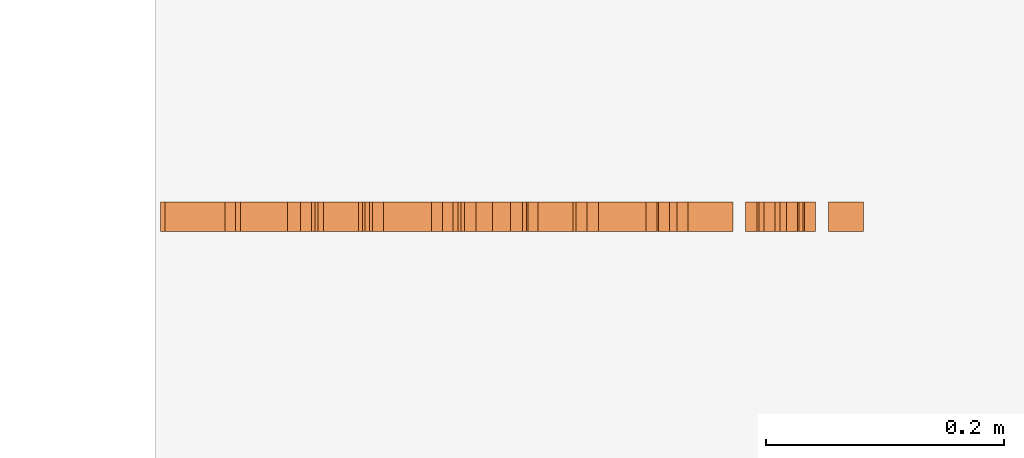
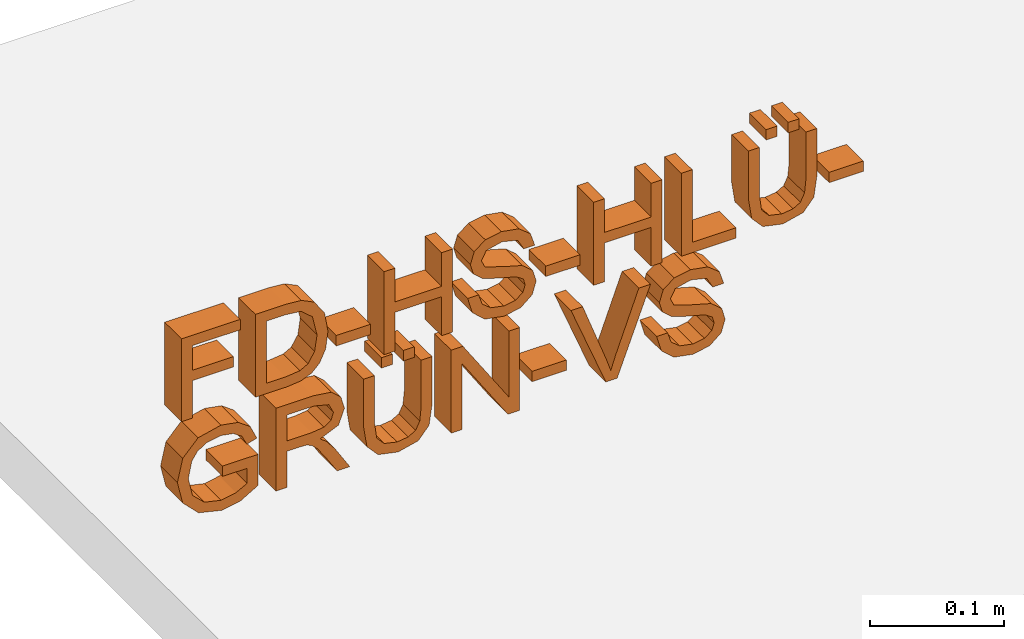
# Not in any storey, part 2 of 2: 1 proxy.
"""IFC2X3 model written with IfcOpenShell, lengths in metres."""

from ifc_helpers import new_model, entity, si_unit, converted_unit, derived_unit, direction, frame, frame_2d, origin, place, context, subcontext, project, spatial, polyline, rectangle, outline, extrude, type_object, element, save


model = new_model("IFC2X3")

# Units and contexts
model_context = context("Model", 3, precision=1e-05, world=origin(), true_north=direction((6.123031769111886e-17, 1.0)))
body_context = subcontext(model_context, "Body", "Model", "MODEL_VIEW")
ifc_project = project(units=[si_unit("LENGTHUNIT", "METRE"), si_unit("AREAUNIT", "SQUARE_METRE"), si_unit("VOLUMEUNIT", "CUBIC_METRE"), converted_unit("PLANEANGLEUNIT", "DEGREE", entity("IfcRatioMeasure", 0.017453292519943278), si_unit("PLANEANGLEUNIT", "RADIAN"), dimensions=[0, 0, 0, 0, 0, 0, 0]), si_unit("MASSUNIT", "GRAM", prefix="KILO"), derived_unit("MASSDENSITYUNIT", [(si_unit("MASSUNIT", "GRAM", prefix="KILO"), 1), (si_unit("LENGTHUNIT", "METRE"), -3)]), derived_unit("IONCONCENTRATIONUNIT", [(si_unit("MASSUNIT", "GRAM", prefix="KILO"), 1), (si_unit("LENGTHUNIT", "METRE"), -3)]), derived_unit("MOMENTOFINERTIAUNIT", [(si_unit("LENGTHUNIT", "METRE"), 4)]), si_unit("TIMEUNIT", "SECOND"), si_unit("FREQUENCYUNIT", "HERTZ"), si_unit("THERMODYNAMICTEMPERATUREUNIT", "DEGREE_CELSIUS"), derived_unit("THERMALTRANSMITTANCEUNIT", [(si_unit("MASSUNIT", "GRAM", prefix="KILO"), 1), (si_unit("THERMODYNAMICTEMPERATUREUNIT", "KELVIN"), -1), (si_unit("TIMEUNIT", "SECOND"), -3)]), derived_unit("THERMALCONDUCTANCEUNIT", [(si_unit("MASSUNIT", "GRAM", prefix="KILO"), 1), (si_unit("THERMODYNAMICTEMPERATUREUNIT", "KELVIN"), -1), (si_unit("TIMEUNIT", "SECOND"), -3), (si_unit("LENGTHUNIT", "METRE"), 1)]), derived_unit("VOLUMETRICFLOWRATEUNIT", [(si_unit("LENGTHUNIT", "METRE"), 3), (si_unit("TIMEUNIT", "SECOND"), -1)]), derived_unit("MASSFLOWRATEUNIT", [(si_unit("MASSUNIT", "GRAM", prefix="KILO"), 1), (si_unit("TIMEUNIT", "SECOND"), -1)]), derived_unit("ROTATIONALFREQUENCYUNIT", [(si_unit("TIMEUNIT", "SECOND"), -1)]), si_unit("ELECTRICCURRENTUNIT", "AMPERE"), si_unit("ELECTRICVOLTAGEUNIT", "VOLT"), si_unit("POWERUNIT", "WATT"), si_unit("FORCEUNIT", "NEWTON", prefix="KILO"), si_unit("ILLUMINANCEUNIT", "LUX"), si_unit("LUMINOUSFLUXUNIT", "LUMEN"), si_unit("LUMINOUSINTENSITYUNIT", "CANDELA"), derived_unit("USERDEFINED", [(si_unit("MASSUNIT", "GRAM", prefix="KILO"), -1), (si_unit("LENGTHUNIT", "METRE"), -2), (si_unit("TIMEUNIT", "SECOND"), 3), (si_unit("LUMINOUSFLUXUNIT", "LUMEN"), 1)]), derived_unit("USERDEFINED", [(si_unit("MASSUNIT", "GRAM", prefix="KILO"), 1), (si_unit("TIMEUNIT", "SECOND"), -3), (si_unit("LENGTHUNIT", "METRE"), 3), (si_unit("ELECTRICCURRENTUNIT", "AMPERE"), -2)]), derived_unit("SOUNDPOWERUNIT", [(si_unit("MASSUNIT", "GRAM", prefix="KILO"), 1), (si_unit("TIMEUNIT", "SECOND"), -3), (si_unit("LENGTHUNIT", "METRE"), 2)]), derived_unit("SOUNDPRESSUREUNIT", [(si_unit("MASSUNIT", "GRAM", prefix="KILO"), 1), (si_unit("LENGTHUNIT", "METRE"), -1), (si_unit("TIMEUNIT", "SECOND"), -2)]), derived_unit("LINEARVELOCITYUNIT", [(si_unit("LENGTHUNIT", "METRE"), 1), (si_unit("TIMEUNIT", "SECOND"), -1)]), si_unit("PRESSUREUNIT", "PASCAL"), derived_unit("USERDEFINED", [(si_unit("MASSUNIT", "GRAM", prefix="KILO"), 1), (si_unit("LENGTHUNIT", "METRE"), -2), (si_unit("TIMEUNIT", "SECOND"), -2)]), derived_unit("LINEARFORCEUNIT", [(si_unit("MASSUNIT", "GRAM", prefix="KILO"), 1), (si_unit("TIMEUNIT", "SECOND"), -2)]), derived_unit("PLANARFORCEUNIT", [(si_unit("MASSUNIT", "GRAM", prefix="KILO"), 1), (si_unit("LENGTHUNIT", "METRE"), -1), (si_unit("TIMEUNIT", "SECOND"), -2)]), derived_unit("SPECIFICHEATCAPACITYUNIT", [(si_unit("THERMODYNAMICTEMPERATUREUNIT", "KELVIN"), -1), (si_unit("LENGTHUNIT", "METRE"), 2), (si_unit("TIMEUNIT", "SECOND"), -2)]), derived_unit("HEATINGVALUEUNIT", [(si_unit("LENGTHUNIT", "METRE"), 2), (si_unit("TIMEUNIT", "SECOND"), -2)]), derived_unit("VAPORPERMEABILITYUNIT", [(si_unit("LENGTHUNIT", "METRE"), -1), (si_unit("TIMEUNIT", "SECOND"), 1)]), derived_unit("DYNAMICVISCOSITYUNIT", [(si_unit("MASSUNIT", "GRAM", prefix="KILO"), 1), (si_unit("TIMEUNIT", "SECOND"), -1), (si_unit("LENGTHUNIT", "METRE"), -1)]), derived_unit("THERMALEXPANSIONCOEFFICIENTUNIT", [(si_unit("THERMODYNAMICTEMPERATUREUNIT", "KELVIN"), -1)]), derived_unit("MODULUSOFELASTICITYUNIT", [(si_unit("MASSUNIT", "GRAM", prefix="KILO"), 1), (si_unit("LENGTHUNIT", "METRE"), -1), (si_unit("TIMEUNIT", "SECOND"), -2)]), derived_unit("ISOTHERMALMOISTURECAPACITYUNIT", [(si_unit("LENGTHUNIT", "METRE"), 3), (si_unit("MASSUNIT", "GRAM", prefix="KILO"), -1)]), derived_unit("MOISTUREDIFFUSIVITYUNIT", [(si_unit("TIMEUNIT", "SECOND"), -1), (si_unit("LENGTHUNIT", "METRE"), 2)])], contexts=[model_context])

# Site
site_placement = place(None, origin())
site = spatial("IfcSite", under=ifc_project, at=site_placement, Name="Default", CompositionType="ELEMENT")

# Proxy
building_element_proxy_type = type_object("IfcBuildingElementProxyType", Name="Modelltext:075mm Arial", PredefinedType="NOTDEFINED")
proxy_placement = place(site_placement, origin())
element("IfcBuildingElementProxy", 1, at=proxy_placement, inside=site, type_object=building_element_proxy_type, Name="Modelltext:075mm Arial", ObjectType="Modelltext:075mm Arial", context=body_context, shape_type="SweptSolid", body=[
    extrude(outline(polyline([(-0.04379267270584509, -0.022838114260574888), (0.03154955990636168, -0.022838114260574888), (0.03154955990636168, 0.027782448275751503), (0.022131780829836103, 0.027782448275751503), (0.022131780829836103, -0.01342033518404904), (-0.00023544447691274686, -0.01342033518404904), (-0.00023544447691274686, 0.021896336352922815), (-0.009653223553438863, 0.021896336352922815), (-0.009653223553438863, -0.01342033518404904), (-0.04379267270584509, -0.01342033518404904), (-0.04379267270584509, -0.022838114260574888)])), frame((-2.063215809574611, 42.834392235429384, -2.4892114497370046), z_axis=(0.0, 1.0, 0.0), x_axis=(0.0, 0.0, 1.0)), (0.0, 0.0, 1.0), 0.025000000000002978),
    extrude(outline(polyline([(-0.03575046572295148, -0.039028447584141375), (0.039591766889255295, -0.039028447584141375), (0.039591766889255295, -0.013037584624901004), (0.03850651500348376, 0.0004085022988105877), (0.03311704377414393, 0.011481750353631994), (0.02024117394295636, 0.020402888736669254), (0.0023253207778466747, 0.023364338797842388), (-0.012877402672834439, 0.021359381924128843), (-0.023849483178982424, 0.01620903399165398), (-0.030682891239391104, 0.009329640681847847), (-0.03446287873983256, 0.0003257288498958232), (-0.03575046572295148, -0.011786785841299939), (-0.03575046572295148, -0.039028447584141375)]), holes=[polyline([(-0.02633268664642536, -0.02961066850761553), (-0.02633268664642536, -0.01294561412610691), (-0.024971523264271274, -0.0008239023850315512), (-0.021127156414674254, 0.006165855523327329), (-0.011773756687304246, 0.011895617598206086), (0.002472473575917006, 0.013946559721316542), (0.020314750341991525, 0.009927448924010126), (0.02866567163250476, 0.00015098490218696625), (0.03017398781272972, -0.013203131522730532), (0.03017398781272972, -0.02961066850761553), (-0.02633268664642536, -0.02961066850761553)])]), frame((-1.9834554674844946, 42.834392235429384, -2.497253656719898), z_axis=(0.0, 1.0, 0.0), x_axis=(0.0, 0.0, 1.0)), (0.0, 0.0, 1.0), 0.025000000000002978),
    extrude(rectangle(XDim=0.025000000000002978, YDim=0.02943055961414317, at=frame_2d((-4.330737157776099e-15, 0.0), x_axis=(1.0, 0.0))), frame((-1.938312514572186, 42.84689223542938, -2.510636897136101), z_axis=(0.0, 0.0, 1.0), x_axis=(0.0, 1.0, 0.0)), (0.0, 0.0, 1.0), 0.009417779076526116),
    extrude(outline(polyline([(-0.03845593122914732, -0.02943055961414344), (0.03688630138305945, -0.02943055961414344), (0.03688630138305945, -0.020012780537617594), (0.006278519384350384, -0.020012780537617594), (0.006278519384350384, 0.020012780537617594), (0.03688630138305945, 0.020012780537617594), (0.03688630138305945, 0.02943055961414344), (-0.03845593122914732, 0.02943055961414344), (-0.03845593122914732, 0.020012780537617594), (-0.003139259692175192, 0.020012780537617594), (-0.003139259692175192, -0.020012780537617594), (-0.03845593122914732, -0.020012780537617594), (-0.03845593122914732, -0.02943055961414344)])), frame((-1.8823944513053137, 42.834392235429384, -2.4945481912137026), z_axis=(0.0, 1.0, 0.0), x_axis=(0.0, 0.0, 1.0)), (0.0, 0.0, 1.0), 0.025000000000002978),
    extrude(outline(polyline([(-0.030292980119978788, 0.011054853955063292), (-0.020875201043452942, 0.011054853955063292), (-0.01784017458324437, 0.020481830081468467), (-0.010427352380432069, 0.02644151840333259), (0.0008666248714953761, 0.028713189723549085), (0.010707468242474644, 0.026993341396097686), (0.017062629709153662, 0.022266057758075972), (0.01915036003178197, 0.015947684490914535), (0.017586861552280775, 0.010070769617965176), (0.011185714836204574, 0.005794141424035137), (-0.0025270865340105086, 0.0021980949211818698), (-0.017288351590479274, -0.00244641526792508), (-0.025298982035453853, -0.009454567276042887), (-0.027938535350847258, -0.018817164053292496), (-0.02467358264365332, -0.02947654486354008), (-0.015136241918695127, -0.03699973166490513), (-0.0011751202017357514, -0.03956570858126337), (0.013724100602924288, -0.03688017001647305), (0.02365691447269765, -0.02898910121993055), (0.02739091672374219, -0.01719848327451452), (0.017973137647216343, -0.01719848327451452), (0.012638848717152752, -0.026873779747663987), (-0.00080723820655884, -0.030147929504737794), (-0.014290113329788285, -0.02691056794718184), (-0.018520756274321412, -0.019093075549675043), (-0.015522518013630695, -0.012563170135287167), (-0.0001450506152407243, -0.007302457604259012), (0.016520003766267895, -0.0025751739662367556), (0.025634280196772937, 0.005058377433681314), (0.028568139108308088, 0.0157085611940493), (0.025192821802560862, 0.02697494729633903), (0.01548073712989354, 0.03519710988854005), (0.0012345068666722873, 0.0381309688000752), (-0.015586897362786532, 0.03496718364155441), (-0.026227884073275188, 0.025439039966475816), (-0.030292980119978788, 0.011054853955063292)])), frame((-1.8097214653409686, 42.834392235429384, -2.4960503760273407), z_axis=(0.0, 1.0, 0.0), x_axis=(1.0, 0.0, 0.0)), (0.0, 0.0, 1.0), 0.025000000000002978),
    extrude(rectangle(XDim=0.025000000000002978, YDim=0.02943055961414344, at=frame_2d((-4.330737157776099e-15, -1.3530843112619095e-16), x_axis=(1.0, 0.0))), frame((-1.7581974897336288, 42.84689223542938, -2.510636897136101), z_axis=(0.0, 0.0, 1.0), x_axis=(0.0, 1.0, 0.0)), (0.0, 0.0, 1.0), 0.009417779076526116),
    extrude(outline(polyline([(-0.03845593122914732, -0.02943055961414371), (0.03688630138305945, -0.02943055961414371), (0.03688630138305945, -0.020012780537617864), (0.006278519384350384, -0.020012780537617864), (0.006278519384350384, 0.020012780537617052), (0.03688630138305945, 0.020012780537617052), (0.03688630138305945, 0.029430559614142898), (-0.03845593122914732, 0.029430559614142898), (-0.03845593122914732, 0.020012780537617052), (-0.003139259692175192, 0.020012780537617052), (-0.003139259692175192, -0.020012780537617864), (-0.03845593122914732, -0.020012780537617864), (-0.03845593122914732, -0.02943055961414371)])), frame((-1.702279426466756, 42.834392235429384, -2.4945481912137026), z_axis=(0.0, 1.0, 0.0), x_axis=(0.0, 0.0, 1.0)), (0.0, 0.0, 1.0), 0.025000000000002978),
    extrude(outline(polyline([(-0.028253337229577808, -0.018835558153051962), (0.04708889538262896, -0.018835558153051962), (0.04708889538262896, -0.009417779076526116), (-0.01883555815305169, -0.009417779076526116), (-0.01883555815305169, 0.028253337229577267), (-0.028253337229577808, 0.028253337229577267), (-0.028253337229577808, -0.018835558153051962)])), frame((-1.6375321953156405, 42.83439223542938, -2.504750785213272), z_axis=(0.0, 1.0, 0.0), x_axis=(0.0, 0.0, 1.0)), (0.0, 0.0, 1.0), 0.025000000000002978),
    extrude(rectangle(XDim=0.025000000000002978, YDim=0.009417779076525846, at=frame_2d((-4.330737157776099e-15, 1.3530843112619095e-16), x_axis=(1.0, 0.0))), frame((-1.578671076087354, 42.84689223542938, -2.45295300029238), z_axis=(0.0, 0.0, 1.0), x_axis=(0.0, 1.0, 0.0)), (0.0, 0.0, 1.0), 0.009417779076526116),
    extrude(rectangle(XDim=0.025000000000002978, YDim=0.02943055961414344, at=frame_2d((-4.330737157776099e-15, 1.3530843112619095e-16), x_axis=(1.0, 0.0))), frame((-1.5145124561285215, 42.84689223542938, -2.510636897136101), z_axis=(0.0, 0.0, 1.0), x_axis=(0.0, 1.0, 0.0)), (0.0, 0.0, 1.0), 0.009417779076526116),
    extrude(outline(polyline([(-0.00963121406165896, 0.0014347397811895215), (-0.00021343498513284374, 0.0014347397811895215), (-0.00021343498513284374, 0.03204252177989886), (-0.02837480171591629, 0.03204252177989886), (-0.03725915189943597, 0.01693176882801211), (-0.04023899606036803, 0.0009564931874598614), (-0.035502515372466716, -0.019157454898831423), (-0.021789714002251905, -0.0328058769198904), (-0.0017585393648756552, -0.03741359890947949), (0.018723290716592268, -0.032824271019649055), (0.032840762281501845, -0.019626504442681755), (0.03745768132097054, 0.0002023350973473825), (0.03478133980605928, 0.014936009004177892), (0.027331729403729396, 0.025264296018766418), (0.014869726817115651, 0.030957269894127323), (0.01242331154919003, 0.02227525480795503), (0.02113291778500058, 0.017980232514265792), (0.026154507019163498, 0.010640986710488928), (0.028039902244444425, 5.518229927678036e-05), (0.026007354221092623, -0.012002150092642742), (0.020673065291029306, -0.020205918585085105), (0.013416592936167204, -0.025052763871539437), (-0.0013722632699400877, -0.027995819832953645), (-0.017788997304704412, -0.02445495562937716), (-0.027611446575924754, -0.014154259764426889), (-0.030821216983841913, 0.0002023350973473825), (-0.028402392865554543, 0.01308740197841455), (-0.02324284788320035, 0.022624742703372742), (-0.00963121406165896, 0.022624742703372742), (-0.00963121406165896, 0.0014347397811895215)])), frame((-2.0521719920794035, 42.834392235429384, -2.5854234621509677), z_axis=(0.0, 1.0, 0.0), x_axis=(0.0, 0.0, 1.0)), (0.0, 0.0, 1.0), 0.025000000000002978),
    extrude(outline(polyline([(-0.03376914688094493, -0.03536314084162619), (0.041573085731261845, -0.03536314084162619), (0.041573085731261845, -0.0028975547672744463), (0.039540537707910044, 0.01217640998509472), (0.032348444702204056, 0.020416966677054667), (0.020953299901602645, 0.02349797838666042), (0.0073784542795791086, 0.018393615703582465), (0.00037030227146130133, 0.002620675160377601), (-0.003658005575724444, 0.007973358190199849), (-0.013351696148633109, 0.015606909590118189), (-0.03376914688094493, 0.028170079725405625), (-0.03376914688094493, 0.017225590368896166), (-0.018152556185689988, 0.007421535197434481), (-0.007815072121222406, 0.0003398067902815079), (-0.00293143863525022, -0.004635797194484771), (-0.0011380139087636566, -0.009114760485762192), (-0.0008069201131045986, -0.01457780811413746), (-0.0008069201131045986, -0.02594536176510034), (-0.03376914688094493, -0.02594536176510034), (-0.03376914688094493, -0.03536314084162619)]), holes=[polyline([(0.008610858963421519, -0.02594536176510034), (0.008610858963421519, -0.004865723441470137), (0.009944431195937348, 0.005885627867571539), (0.01421186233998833, 0.011992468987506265), (0.020603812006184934, 0.014080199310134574), (0.02889955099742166, 0.01009787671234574), (0.03215530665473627, -0.002492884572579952), (0.03215530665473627, -0.02594536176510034), (0.008610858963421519, -0.02594536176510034)])]), frame((-1.9694624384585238, 42.834392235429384, -2.590716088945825), z_axis=(0.0, 1.0, 0.0), x_axis=(0.0, 0.0, 1.0)), (0.0, 0.0, 1.0), 0.025000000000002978),
    extrude(rectangle(XDim=0.025000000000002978, YDim=0.009417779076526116, at=frame_2d((-4.330737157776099e-15, 0.0), x_axis=(1.0, 0.0))), frame((-1.9094705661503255, 42.84689223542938, -2.5444341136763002), z_axis=(0.0, 0.0, 1.0), x_axis=(0.0, 1.0, 0.0)), (0.0, 0.0, 1.0), 0.009417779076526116),
    extrude(outline(polyline([(-0.037672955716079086, -0.02943055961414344), (0.03766927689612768, -0.02943055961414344), (0.03766927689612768, -0.019350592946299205), (-0.02201957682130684, 0.020012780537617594), (0.03766927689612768, 0.020012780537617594), (0.03766927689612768, 0.02943055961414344), (-0.037672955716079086, 0.02943055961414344), (-0.037672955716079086, 0.019350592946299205), (0.02203429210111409, -0.020012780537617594), (-0.037672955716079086, -0.020012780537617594), (-0.037672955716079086, -0.02943055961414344)])), frame((-1.8247105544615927, 42.834392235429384, -2.5868122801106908), z_axis=(0.0, 1.0, 0.0), x_axis=(0.0, 0.0, 1.0)), (0.0, 0.0, 1.0), 0.025000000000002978),
    extrude(outline(polyline([(0.0193050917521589, -0.04688825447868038), (0.028722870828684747, -0.04688825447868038), (0.028722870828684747, -0.0034229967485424), (0.026166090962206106, 0.014594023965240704), (0.016950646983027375, 0.025446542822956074), (-0.0005237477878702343, 0.02963120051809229), (-0.01773142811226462, 0.025989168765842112), (-0.027277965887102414, 0.015440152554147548), (-0.030138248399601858, -0.0034229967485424), (-0.030138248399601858, -0.04688825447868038), (-0.020720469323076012, -0.04688825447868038), (-0.020720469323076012, -0.0037540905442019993), (-0.01886266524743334, 0.010602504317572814), (-0.012479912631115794, 0.01771182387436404), (-0.0014066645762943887, 0.02021342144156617), (0.008172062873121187, 0.018976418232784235), (0.014541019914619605, 0.01526540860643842), (0.018114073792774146, 0.008036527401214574), (0.0193050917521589, -0.0037540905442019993), (0.0193050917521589, -0.04688825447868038)])), frame((-1.5685456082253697, 42.834392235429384, -2.5045501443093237), z_axis=(0.0, 1.0, 0.0), x_axis=(1.0, 0.0, 0.0)), (0.0, 0.0, 1.0), 0.025000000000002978),
    extrude(outline(polyline([(0.01930509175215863, -0.04688825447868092), (0.028722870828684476, -0.04688825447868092), (0.028722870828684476, -0.0034229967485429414), (0.026166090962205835, 0.014594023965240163), (0.016950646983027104, 0.025446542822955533), (-0.000523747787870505, 0.029631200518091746), (-0.017731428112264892, 0.02598916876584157), (-0.027277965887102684, 0.015440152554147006), (-0.0301382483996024, -0.0034229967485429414), (-0.0301382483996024, -0.04688825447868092), (-0.020720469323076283, -0.04688825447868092), (-0.020720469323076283, -0.0037540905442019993), (-0.01886266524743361, 0.010602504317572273), (-0.012479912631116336, 0.0177118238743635), (-0.0014066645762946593, 0.02021342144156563), (0.008172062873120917, 0.018976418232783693), (0.014541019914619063, 0.015265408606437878), (0.018114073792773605, 0.008036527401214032), (0.01930509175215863, -0.0037540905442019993), (0.01930509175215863, -0.04688825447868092)])), frame((-1.8993450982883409, 42.834392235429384, -2.596031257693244), z_axis=(0.0, 1.0, 0.0), x_axis=(1.0, 0.0, 0.0)), (0.0, 0.0, 1.0), 0.025000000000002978),
    extrude(rectangle(XDim=0.025000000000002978, YDim=0.009417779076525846, at=frame_2d((-4.330737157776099e-15, -1.3530843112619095e-16), x_axis=(1.0, 0.0))), frame((-1.5598355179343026, 42.84689223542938, -2.45295300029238), z_axis=(0.0, 0.0, 1.0), x_axis=(0.0, 1.0, 0.0)), (0.0, 0.0, 1.0), 0.009417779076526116),
    extrude(rectangle(XDim=0.025000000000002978, YDim=0.009417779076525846, at=frame_2d((-4.330737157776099e-15, -1.3530843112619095e-16), x_axis=(1.0, 0.0))), frame((-1.890635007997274, 42.84689223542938, -2.5444341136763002), z_axis=(0.0, 0.0, 1.0), x_axis=(0.0, 1.0, 0.0)), (0.0, 0.0, 1.0), 0.009417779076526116),
    extrude(rectangle(XDim=0.025000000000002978, YDim=0.02943055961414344, at=frame_2d((-4.330737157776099e-15, 1.3530843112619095e-16), x_axis=(1.0, 0.0))), frame((-1.769969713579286, 42.84689223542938, -2.6021180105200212), z_axis=(0.0, 0.0, 1.0), x_axis=(0.0, 1.0, 0.0)), (0.0, 0.0, 1.0), 0.009417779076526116),
    extrude(outline(polyline([(-0.03475834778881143, -0.018530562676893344), (0.046330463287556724, -0.01853056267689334), (0.04260342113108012, -0.009164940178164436), (-0.015250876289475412, -0.01058940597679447), (-0.028119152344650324, -0.011335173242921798), (-0.018236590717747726, -0.0030866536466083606), (0.024757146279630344, 0.03568066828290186), (0.021030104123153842, 0.04504629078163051), (-0.03835616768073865, -0.00948966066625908), (-0.03475834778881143, -0.018530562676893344)])), frame((-1.7168598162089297, 42.834392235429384, -2.5853385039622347), z_axis=(0.0, 1.0, 0.0), x_axis=(-0.36974746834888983, 0.0, 0.9291322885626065)), (0.0, 0.0, 1.0), 0.025000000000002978),
    extrude(outline(polyline([(-0.03029298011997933, 0.011054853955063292), (-0.020875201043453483, 0.011054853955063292), (-0.01784017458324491, 0.020481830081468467), (-0.01042735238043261, 0.02644151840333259), (0.0008666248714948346, 0.028713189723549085), (0.010707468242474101, 0.026993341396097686), (0.01706262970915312, 0.022266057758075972), (0.01915036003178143, 0.015947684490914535), (0.017586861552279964, 0.010070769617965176), (0.011185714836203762, 0.005794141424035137), (-0.00252708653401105, 0.0021980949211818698), (-0.017288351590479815, -0.00244641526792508), (-0.025298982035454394, -0.009454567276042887), (-0.02793853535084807, -0.018817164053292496), (-0.024673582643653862, -0.02947654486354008), (-0.015136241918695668, -0.03699973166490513), (-0.0011751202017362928, -0.03956570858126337), (0.013724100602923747, -0.03688017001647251), (0.023656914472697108, -0.02898910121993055), (0.027390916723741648, -0.01719848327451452), (0.017973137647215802, -0.01719848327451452), (0.01263884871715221, -0.026873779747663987), (-0.0008072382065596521, -0.030147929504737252), (-0.014290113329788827, -0.02691056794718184), (-0.018520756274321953, -0.019093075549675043), (-0.015522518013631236, -0.012563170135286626), (-0.00014505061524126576, -0.0073024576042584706), (0.016520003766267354, -0.0025751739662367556), (0.025634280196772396, 0.005058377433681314), (0.028568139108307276, 0.01570856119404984), (0.025192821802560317, 0.02697494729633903), (0.015480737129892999, 0.03519710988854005), (0.001234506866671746, 0.0381309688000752), (-0.015586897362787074, 0.034967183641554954), (-0.02622788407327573, 0.025439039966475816), (-0.03029298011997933, 0.011054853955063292)])), frame((-1.6472647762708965, 42.834392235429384, -2.5875314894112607), z_axis=(0.0, 1.0, 0.0), x_axis=(1.0, 0.0, 0.0)), (0.0, 0.0, 1.0), 0.025000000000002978),
])

save(model, "model.ifc")
